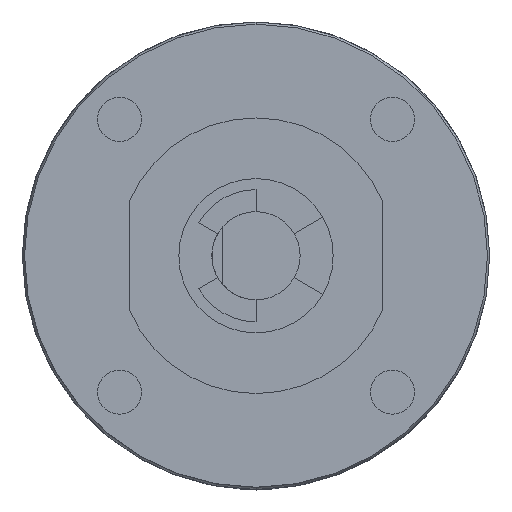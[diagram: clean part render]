
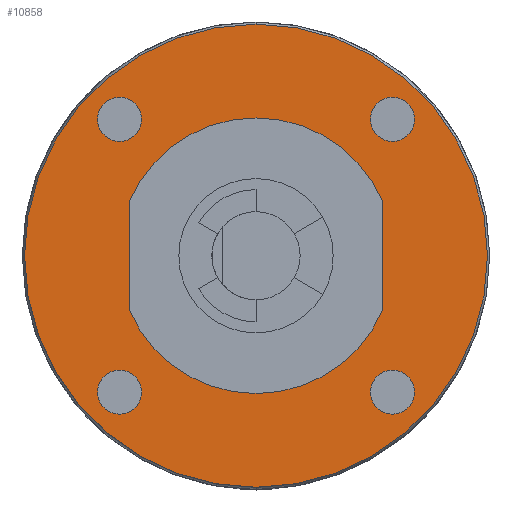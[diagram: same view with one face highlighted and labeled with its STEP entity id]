
A CAD part, front view. The second image highlights one B-rep face of the part: STEP entity #10858.
In plain terms, the highlighted planar face has unit normal (0, -1, 0) as drawn and (0, 1, 0) by its records, which use the part's own axes.
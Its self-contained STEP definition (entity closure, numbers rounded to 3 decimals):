
#9775=CARTESIAN_POINT('',(0.,39.2,0.));
#9776=DIRECTION('',(0.,1.,0.));
#9777=DIRECTION('',(0.,0.,1.));
#9778=AXIS2_PLACEMENT_3D('',#9775,#9776,#9777);
#9780=CARTESIAN_POINT('',(0.,39.2,0.));
#9781=DIRECTION('',(0.,1.,0.));
#9782=DIRECTION('',(0.,0.,-1.));
#9783=AXIS2_PLACEMENT_3D('',#9780,#9781,#9782);
#9785=CARTESIAN_POINT('',(-12.374,39.2,12.374));
#9786=DIRECTION('',(0.,-1.,0.));
#9787=DIRECTION('',(0.,0.,-1.));
#9788=AXIS2_PLACEMENT_3D('',#9785,#9786,#9787);
#9790=CARTESIAN_POINT('',(-12.374,39.2,12.374));
#9791=DIRECTION('',(0.,-1.,0.));
#9792=DIRECTION('',(0.,0.,1.));
#9793=AXIS2_PLACEMENT_3D('',#9790,#9791,#9792);
#9795=CARTESIAN_POINT('',(-12.374,39.2,-12.374));
#9796=DIRECTION('',(0.,-1.,0.));
#9797=DIRECTION('',(0.,0.,-1.));
#9798=AXIS2_PLACEMENT_3D('',#9795,#9796,#9797);
#9800=CARTESIAN_POINT('',(-12.374,39.2,-12.374));
#9801=DIRECTION('',(0.,-1.,0.));
#9802=DIRECTION('',(0.,0.,1.));
#9803=AXIS2_PLACEMENT_3D('',#9800,#9801,#9802);
#9805=CARTESIAN_POINT('',(12.374,39.2,-12.374));
#9806=DIRECTION('',(0.,-1.,0.));
#9807=DIRECTION('',(0.,0.,-1.));
#9808=AXIS2_PLACEMENT_3D('',#9805,#9806,#9807);
#9810=CARTESIAN_POINT('',(12.374,39.2,-12.374));
#9811=DIRECTION('',(0.,-1.,0.));
#9812=DIRECTION('',(0.,0.,1.));
#9813=AXIS2_PLACEMENT_3D('',#9810,#9811,#9812);
#9815=CARTESIAN_POINT('',(12.374,39.2,12.374));
#9816=DIRECTION('',(0.,-1.,0.));
#9817=DIRECTION('',(0.,0.,-1.));
#9818=AXIS2_PLACEMENT_3D('',#9815,#9816,#9817);
#9820=CARTESIAN_POINT('',(12.374,39.2,12.374));
#9821=DIRECTION('',(0.,-1.,0.));
#9822=DIRECTION('',(0.,0.,1.));
#9823=AXIS2_PLACEMENT_3D('',#9820,#9821,#9822);
#9825=DIRECTION('',(0.,0.,1.));
#9826=VECTOR('',#9825,9.798);
#9827=CARTESIAN_POINT('',(11.5,39.2,-4.899));
#9828=LINE('',#9827,#9826);
#9829=CARTESIAN_POINT('',(0.,39.2,0.));
#9830=DIRECTION('',(0.,-1.,0.));
#9831=DIRECTION('',(0.,0.,-1.));
#9832=AXIS2_PLACEMENT_3D('',#9829,#9830,#9831);
#9834=CARTESIAN_POINT('',(0.,39.2,0.));
#9835=DIRECTION('',(0.,-1.,0.));
#9836=DIRECTION('',(-0.92,0.,-0.392));
#9837=AXIS2_PLACEMENT_3D('',#9834,#9835,#9836);
#9839=DIRECTION('',(0.,0.,-1.));
#9840=VECTOR('',#9839,9.798);
#9841=CARTESIAN_POINT('',(-11.5,39.2,4.899));
#9842=LINE('',#9841,#9840);
#9843=CARTESIAN_POINT('',(0.,39.2,0.));
#9844=DIRECTION('',(0.,-1.,0.));
#9845=DIRECTION('',(0.,0.,1.));
#9846=AXIS2_PLACEMENT_3D('',#9843,#9844,#9845);
#9848=CARTESIAN_POINT('',(0.,39.2,0.));
#9849=DIRECTION('',(0.,-1.,0.));
#9850=DIRECTION('',(0.92,0.,0.392));
#9851=AXIS2_PLACEMENT_3D('',#9848,#9849,#9850);
#10345=CARTESIAN_POINT('',(-12.374,39.2,-14.374));
#10346=CARTESIAN_POINT('',(-12.374,39.2,-10.374));
#10347=VERTEX_POINT('',#10345);
#10348=VERTEX_POINT('',#10346);
#10381=CARTESIAN_POINT('',(12.374,39.2,14.374));
#10383=VERTEX_POINT('',#10381);
#10389=CARTESIAN_POINT('',(-12.374,39.2,10.374));
#10390=CARTESIAN_POINT('',(-12.374,39.2,14.374));
#10391=VERTEX_POINT('',#10389);
#10392=VERTEX_POINT('',#10390);
#10395=CARTESIAN_POINT('',(12.374,39.2,-14.374));
#10397=VERTEX_POINT('',#10395);
#10431=CARTESIAN_POINT('',(0.,39.2,-21.));
#10433=VERTEX_POINT('',#10431);
#10449=CARTESIAN_POINT('',(-11.5,39.2,-4.899));
#10450=CARTESIAN_POINT('',(0.,39.2,-12.5));
#10451=VERTEX_POINT('',#10449);
#10452=VERTEX_POINT('',#10450);
#10489=CARTESIAN_POINT('',(12.374,39.2,-10.374));
#10490=VERTEX_POINT('',#10489);
#10509=CARTESIAN_POINT('',(-11.5,39.2,4.899));
#10510=VERTEX_POINT('',#10509);
#10512=CARTESIAN_POINT('',(11.5,39.2,-4.899));
#10514=VERTEX_POINT('',#10512);
#10525=CARTESIAN_POINT('',(12.374,39.2,10.374));
#10526=VERTEX_POINT('',#10525);
#10531=CARTESIAN_POINT('',(11.5,39.2,4.899));
#10533=VERTEX_POINT('',#10531);
#10555=CARTESIAN_POINT('',(0.,39.2,21.));
#10556=VERTEX_POINT('',#10555);
#10559=CARTESIAN_POINT('',(0.,39.2,12.5));
#10560=VERTEX_POINT('',#10559);
#10811=CARTESIAN_POINT('',(0.,39.2,0.));
#10812=DIRECTION('',(0.,1.,0.));
#10813=DIRECTION('',(0.,0.,1.));
#10814=AXIS2_PLACEMENT_3D('',#10811,#10812,#10813);
#10815=PLANE('',#10814);
#10816=ORIENTED_EDGE('',*,*,#10791,.F.);
#10817=ORIENTED_EDGE('',*,*,#10804,.F.);
#10818=EDGE_LOOP('',(#10816,#10817));
#10819=FACE_OUTER_BOUND('',#10818,.F.);
#10821=ORIENTED_EDGE('',*,*,#10820,.F.);
#10823=ORIENTED_EDGE('',*,*,#10822,.F.);
#10824=EDGE_LOOP('',(#10821,#10823));
#10825=FACE_BOUND('',#10824,.F.);
#10827=ORIENTED_EDGE('',*,*,#10826,.F.);
#10829=ORIENTED_EDGE('',*,*,#10828,.F.);
#10830=EDGE_LOOP('',(#10827,#10829));
#10831=FACE_BOUND('',#10830,.F.);
#10833=ORIENTED_EDGE('',*,*,#10832,.F.);
#10835=ORIENTED_EDGE('',*,*,#10834,.F.);
#10836=EDGE_LOOP('',(#10833,#10835));
#10837=FACE_BOUND('',#10836,.F.);
#10839=ORIENTED_EDGE('',*,*,#10838,.F.);
#10841=ORIENTED_EDGE('',*,*,#10840,.F.);
#10842=EDGE_LOOP('',(#10839,#10841));
#10843=FACE_BOUND('',#10842,.F.);
#10845=ORIENTED_EDGE('',*,*,#10844,.F.);
#10847=ORIENTED_EDGE('',*,*,#10846,.F.);
#10849=ORIENTED_EDGE('',*,*,#10848,.F.);
#10851=ORIENTED_EDGE('',*,*,#10850,.F.);
#10853=ORIENTED_EDGE('',*,*,#10852,.F.);
#10855=ORIENTED_EDGE('',*,*,#10854,.F.);
#10856=EDGE_LOOP('',(#10845,#10847,#10849,#10851,#10853,#10855));
#10857=FACE_BOUND('',#10856,.F.);
#10858=ADVANCED_FACE('',(#10819,#10825,#10831,#10837,#10843,#10857),#10815,.T.);
#9779=CIRCLE('',#9778,21.);
#9784=CIRCLE('',#9783,21.);
#9789=CIRCLE('',#9788,2.);
#9794=CIRCLE('',#9793,2.);
#9799=CIRCLE('',#9798,2.);
#9804=CIRCLE('',#9803,2.);
#9809=CIRCLE('',#9808,2.);
#9814=CIRCLE('',#9813,2.);
#9819=CIRCLE('',#9818,2.);
#9824=CIRCLE('',#9823,2.);
#9833=CIRCLE('',#9832,12.5);
#9838=CIRCLE('',#9837,12.5);
#9847=CIRCLE('',#9846,12.5);
#9852=CIRCLE('',#9851,12.5);
#10791=EDGE_CURVE('',#10556,#10433,#9779,.T.);
#10804=EDGE_CURVE('',#10433,#10556,#9784,.T.);
#10820=EDGE_CURVE('',#10391,#10392,#9789,.T.);
#10822=EDGE_CURVE('',#10392,#10391,#9794,.T.);
#10826=EDGE_CURVE('',#10347,#10348,#9799,.T.);
#10828=EDGE_CURVE('',#10348,#10347,#9804,.T.);
#10832=EDGE_CURVE('',#10397,#10490,#9809,.T.);
#10834=EDGE_CURVE('',#10490,#10397,#9814,.T.);
#10838=EDGE_CURVE('',#10526,#10383,#9819,.T.);
#10840=EDGE_CURVE('',#10383,#10526,#9824,.T.);
#10844=EDGE_CURVE('',#10514,#10533,#9828,.T.);
#10846=EDGE_CURVE('',#10452,#10514,#9833,.T.);
#10848=EDGE_CURVE('',#10451,#10452,#9838,.T.);
#10850=EDGE_CURVE('',#10510,#10451,#9842,.T.);
#10852=EDGE_CURVE('',#10560,#10510,#9847,.T.);
#10854=EDGE_CURVE('',#10533,#10560,#9852,.T.);
